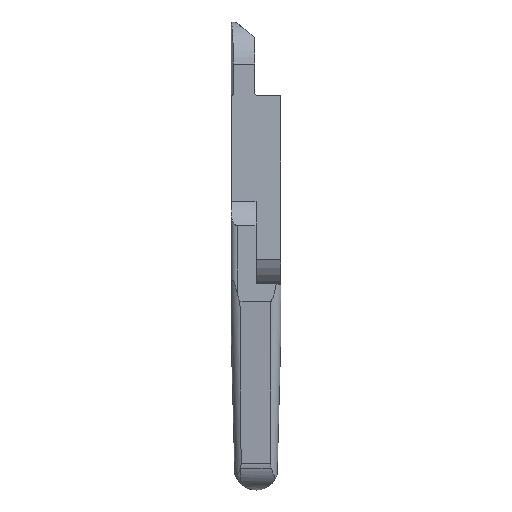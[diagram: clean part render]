
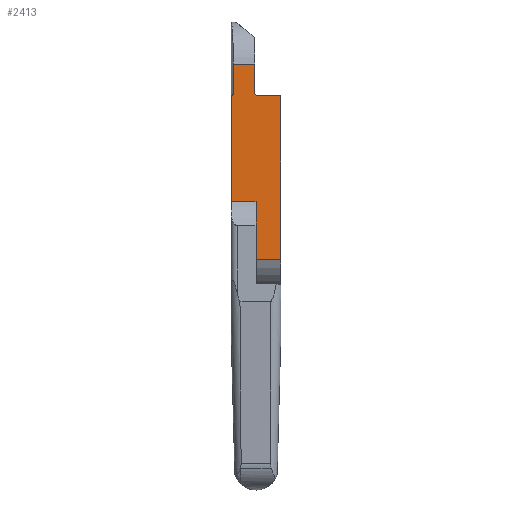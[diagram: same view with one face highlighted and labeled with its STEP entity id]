
A CAD part, front view. The second image highlights one B-rep face of the part: STEP entity #2413.
In plain terms, the highlighted planar face has unit normal (0, -1, 0).
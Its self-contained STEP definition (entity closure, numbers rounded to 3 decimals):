
#23 = VERTEX_POINT ( 'NONE', #632 ) ;
#157 = VERTEX_POINT ( 'NONE', #618 ) ;
#234 = CARTESIAN_POINT ( 'NONE',  ( -7.664, -15.997, 50.731 ) ) ;
#235 = CARTESIAN_POINT ( 'NONE',  ( -7.664, -15.997, 50.538 ) ) ;
#236 = CARTESIAN_POINT ( 'NONE',  ( -7.74, -15.997, 50.332 ) ) ;
#237 = CARTESIAN_POINT ( 'NONE',  ( -7.895, -15.997, 50.177 ) ) ;
#238 = CARTESIAN_POINT ( 'NONE',  ( -7.896, -15.997, 50.176 ) ) ;
#240 = CARTESIAN_POINT ( 'NONE',  ( -7.899, -15.997, 50.173 ) ) ;
#241 = CARTESIAN_POINT ( 'NONE',  ( -7.904, -15.997, 50.169 ) ) ;
#242 = CARTESIAN_POINT ( 'NONE',  ( -7.915, -15.997, 50.158 ) ) ;
#243 = CARTESIAN_POINT ( 'NONE',  ( -7.926, -15.997, 50.148 ) ) ;
#245 = CARTESIAN_POINT ( 'NONE',  ( -7.948, -15.997, 50.129 ) ) ;
#246 = CARTESIAN_POINT ( 'NONE',  ( -7.964, -15.997, 50.116 ) ) ;
#247 = CARTESIAN_POINT ( 'NONE',  ( -8.015, -15.997, 50.078 ) ) ;
#248 = CARTESIAN_POINT ( 'NONE',  ( -8.055, -15.997, 50.053 ) ) ;
#249 = CARTESIAN_POINT ( 'NONE',  ( -8.193, -15.997, 49.986 ) ) ;
#250 = CARTESIAN_POINT ( 'NONE',  ( -8.31, -15.997, 49.951 ) ) ;
#251 = CARTESIAN_POINT ( 'NONE',  ( -8.445, -15.997, 49.951 ) ) ;
#441 = CARTESIAN_POINT ( 'NONE',  ( 0.55, -15.997, 49.951 ) ) ;
#449 = CARTESIAN_POINT ( 'NONE',  ( -7.664, -15.997, 50.731 ) ) ;
#459 = CARTESIAN_POINT ( 'NONE',  ( -8.45, -15.997, 49.951 ) ) ;
#460 = CARTESIAN_POINT ( 'NONE',  ( -8.45, -15.999, 13.932 ) ) ;
#482 = CARTESIAN_POINT ( 'NONE',  ( -0.45, -15.996, 60.643 ) ) ;
#483 = CARTESIAN_POINT ( 'NONE',  ( -7.664, -15.996, 60.643 ) ) ;
#485 = CARTESIAN_POINT ( 'NONE',  ( 8.45, -15.997, 49.951 ) ) ;
#495 = CARTESIAN_POINT ( 'NONE',  ( 0., -16., -5.744 ) ) ;
#496 = CARTESIAN_POINT ( 'NONE',  ( 8.45, -16., -5.744 ) ) ;
#506 = CARTESIAN_POINT ( 'NONE',  ( 0., -15.999, 13.932 ) ) ;
#618 = CARTESIAN_POINT ( 'NONE',  ( -8.445, -15.997, 49.951 ) ) ;
#632 = CARTESIAN_POINT ( 'NONE',  ( -0.45, -15.997, 50.951 ) ) ;
#727 = VERTEX_POINT ( 'NONE', #506 ) ;
#737 = VERTEX_POINT ( 'NONE', #496 ) ;
#738 = VERTEX_POINT ( 'NONE', #495 ) ;
#748 = VERTEX_POINT ( 'NONE', #485 ) ;
#750 = VERTEX_POINT ( 'NONE', #483 ) ;
#751 = VERTEX_POINT ( 'NONE', #482 ) ;
#773 = VERTEX_POINT ( 'NONE', #460 ) ;
#774 = VERTEX_POINT ( 'NONE', #459 ) ;
#784 = VERTEX_POINT ( 'NONE', #449 ) ;
#792 = VERTEX_POINT ( 'NONE', #441 ) ;
#1106 = PLANE ( 'NONE',  #4126 ) ;
#1108 = CARTESIAN_POINT ( 'NONE',  ( -8.45, -16., -5.744 ) ) ;
#1121 = DIRECTION ( 'NONE',  ( 0., -1., 0. ) ) ;
#1122 = DIRECTION ( 'NONE',  ( 1., 0., 0. ) ) ;
#1639 = CARTESIAN_POINT ( 'NONE',  ( 0.55, -15.997, 49.951 ) ) ;
#1640 = CARTESIAN_POINT ( 'NONE',  ( 0.288, -15.997, 49.951 ) ) ;
#1641 = CARTESIAN_POINT ( 'NONE',  ( 0.028, -15.997, 50.059 ) ) ;
#1642 = CARTESIAN_POINT ( 'NONE',  ( -0.342, -15.997, 50.429 ) ) ;
#1643 = CARTESIAN_POINT ( 'NONE',  ( -0.45, -15.997, 50.689 ) ) ;
#1644 = CARTESIAN_POINT ( 'NONE',  ( -0.45, -15.997, 50.951 ) ) ;
#1758 = B_SPLINE_CURVE_WITH_KNOTS ( 'NONE', 3,
 ( #1644, #1643, #1642, #1641, #1640, #1639 ),
 .UNSPECIFIED., .F., .F.,
 ( 4, 2, 4 ),
 ( 0., 0.5, 1. ),
 .UNSPECIFIED. ) ;
#1770 = B_SPLINE_CURVE_WITH_KNOTS ( 'NONE', 3,
 ( #251, #250, #249, #248, #247, #246, #245, #243, #242, #241, #240, #238, #237, #236, #235, #234 ),
 .UNSPECIFIED., .F., .F.,
 ( 4, 2, 2, 2, 1, 1, 2, 2, 4 ),
 ( 0., 0.25, 0.375, 0.437, 0.469, 0.484, 0.492, 0.5, 1. ),
 .UNSPECIFIED. ) ;
#2125 = EDGE_CURVE ( 'NONE', #157, #784, #1770, .T. ) ;
#2144 = EDGE_CURVE ( 'NONE', #23, #792, #1758, .T. ) ;
#2164 = EDGE_CURVE ( 'NONE', #23, #751, #3357, .T. ) ;
#2166 = EDGE_CURVE ( 'NONE', #751, #750, #3354, .T. ) ;
#2167 = EDGE_CURVE ( 'NONE', #750, #784, #3352, .T. ) ;
#2168 = EDGE_CURVE ( 'NONE', #157, #774, #3350, .T. ) ;
#2170 = EDGE_CURVE ( 'NONE', #774, #773, #3346, .T. ) ;
#2189 = EDGE_CURVE ( 'NONE', #748, #792, #4108, .T. ) ;
#2206 = EDGE_CURVE ( 'NONE', #738, #737, #4928, .T. ) ;
#2208 = EDGE_CURVE ( 'NONE', #738, #727, #4931, .T. ) ;
#2209 = EDGE_CURVE ( 'NONE', #748, #737, #2528, .T. ) ;
#2210 = EDGE_CURVE ( 'NONE', #773, #727, #2526, .T. ) ;
#2413 = ADVANCED_FACE ( 'NONE', ( #4506 ), #1106, .T. ) ;
#2525 = VECTOR ( 'NONE', #4408, 1000. ) ;
#2526 = LINE ( 'NONE', #4409, #2525 ) ;
#2527 = VECTOR ( 'NONE', #4410, 1000. ) ;
#2528 = LINE ( 'NONE', #4411, #2527 ) ;
#3345 = VECTOR ( 'NONE', #4737, 1000. ) ;
#3346 = LINE ( 'NONE', #4738, #3345 ) ;
#3349 = VECTOR ( 'NONE', #4742, 1000. ) ;
#3350 = LINE ( 'NONE', #4743, #3349 ) ;
#3351 = VECTOR ( 'NONE', #4744, 1000. ) ;
#3352 = LINE ( 'NONE', #4745, #3351 ) ;
#3353 = VECTOR ( 'NONE', #4746, 1000. ) ;
#3354 = LINE ( 'NONE', #4748, #3353 ) ;
#3355 = VECTOR ( 'NONE', #4822, 1000. ) ;
#3357 = LINE ( 'NONE', #4823, #3355 ) ;
#3608 = EDGE_LOOP ( 'NONE', ( #3888, #3887, #3886, #3885, #3884, #3883, #3882, #3881, #3880, #3879, #3878, #3877 ) ) ;
#3877 = ORIENTED_EDGE ( 'NONE', *, *, #2210, .T. ) ;
#3878 = ORIENTED_EDGE ( 'NONE', *, *, #2170, .T. ) ;
#3879 = ORIENTED_EDGE ( 'NONE', *, *, #2168, .T. ) ;
#3880 = ORIENTED_EDGE ( 'NONE', *, *, #2125, .F. ) ;
#3881 = ORIENTED_EDGE ( 'NONE', *, *, #2167, .T. ) ;
#3882 = ORIENTED_EDGE ( 'NONE', *, *, #2166, .T. ) ;
#3883 = ORIENTED_EDGE ( 'NONE', *, *, #2164, .T. ) ;
#3884 = ORIENTED_EDGE ( 'NONE', *, *, #2144, .F. ) ;
#3885 = ORIENTED_EDGE ( 'NONE', *, *, #2189, .T. ) ;
#3886 = ORIENTED_EDGE ( 'NONE', *, *, #2209, .F. ) ;
#3887 = ORIENTED_EDGE ( 'NONE', *, *, #2206, .T. ) ;
#3888 = ORIENTED_EDGE ( 'NONE', *, *, #2208, .F. ) ;
#4106 = VECTOR ( 'NONE', #4471, 1000. ) ;
#4108 = LINE ( 'NONE', #4478, #4106 ) ;
#4126 = AXIS2_PLACEMENT_3D ( 'NONE', #1108, #1121, #1122 ) ;
#4408 = DIRECTION ( 'NONE',  ( 1., 0., 0. ) ) ;
#4409 = CARTESIAN_POINT ( 'NONE',  ( -4.225, -15.999, 13.932 ) ) ;
#4410 = DIRECTION ( 'NONE',  ( 0., 0., -1. ) ) ;
#4411 = CARTESIAN_POINT ( 'NONE',  ( 8.45, -15.999, 9.585 ) ) ;
#4412 = DIRECTION ( 'NONE',  ( 0., 0., 1. ) ) ;
#4414 = CARTESIAN_POINT ( 'NONE',  ( 0., -16., 0.184 ) ) ;
#4420 = DIRECTION ( 'NONE',  ( 1., 0., 0. ) ) ;
#4421 = CARTESIAN_POINT ( 'NONE',  ( 0., -16., -5.744 ) ) ;
#4471 = DIRECTION ( 'NONE',  ( -1., 0., 0. ) ) ;
#4478 = CARTESIAN_POINT ( 'NONE',  ( 0., -15.997, 49.951 ) ) ;
#4506 = FACE_OUTER_BOUND ( 'NONE', #3608, .T. ) ;
#4737 = DIRECTION ( 'NONE',  ( 0., 0., -1. ) ) ;
#4738 = CARTESIAN_POINT ( 'NONE',  ( -8.45, -15.998, 27.45 ) ) ;
#4742 = DIRECTION ( 'NONE',  ( -1., 0., 0. ) ) ;
#4743 = CARTESIAN_POINT ( 'NONE',  ( 0., -15.997, 49.951 ) ) ;
#4744 = DIRECTION ( 'NONE',  ( 0., 0., -1. ) ) ;
#4745 = CARTESIAN_POINT ( 'NONE',  ( -7.664, -15.998, 27.45 ) ) ;
#4746 = DIRECTION ( 'NONE',  ( -1., 0., 0. ) ) ;
#4748 = CARTESIAN_POINT ( 'NONE',  ( 0., -15.996, 60.643 ) ) ;
#4822 = DIRECTION ( 'NONE',  ( 0., 0., 1. ) ) ;
#4823 = CARTESIAN_POINT ( 'NONE',  ( -0.45, -15.998, 27.45 ) ) ;
#4928 = LINE ( 'NONE', #4421, #4932 ) ;
#4929 = VECTOR ( 'NONE', #4412, 1000. ) ;
#4931 = LINE ( 'NONE', #4414, #4929 ) ;
#4932 = VECTOR ( 'NONE', #4420, 1000. ) ;
